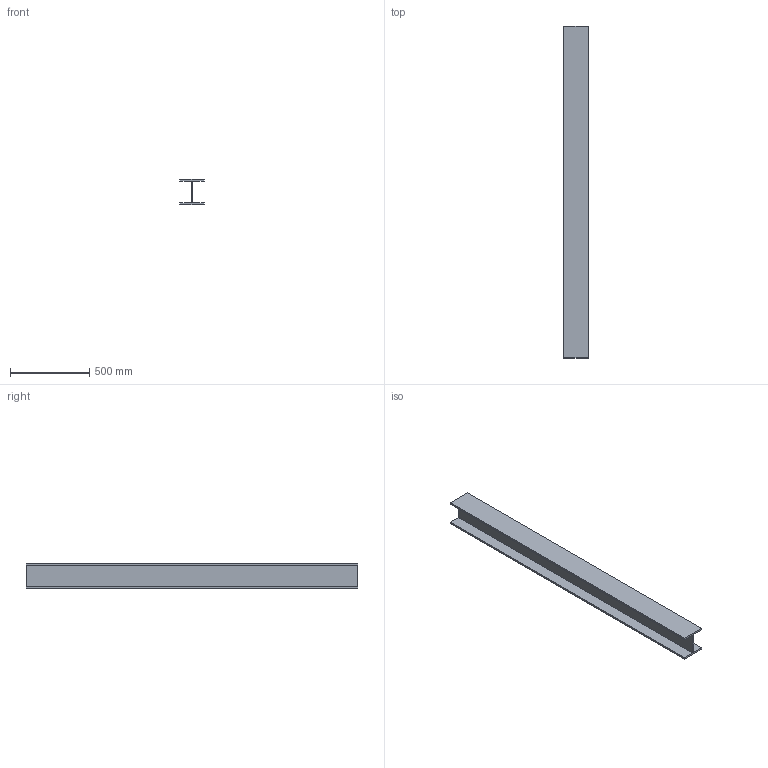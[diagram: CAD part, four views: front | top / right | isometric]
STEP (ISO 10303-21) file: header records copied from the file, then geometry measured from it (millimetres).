
FILE_DESCRIPTION(('Open CASCADE Model'),'2;1');
FILE_NAME('Open CASCADE Shape Model','2026-09-19T12:55:23',('Author'),( 'Open CASCADE'),'Open CASCADE STEP processor 7.9','Open CASCADE 7.9' ,'Unknown');
FILE_SCHEMA(('AUTOMOTIVE_DESIGN { 1 0 10303 214 1 1 1 1 }'));
Length unit declared in the file: millimetre
Products named in the file (1): Open CASCADE STEP translator 7.9 426
Bounding box: 154 x 2100 x 162 mm (x, y, z)
Volume: 9863868 mm3; surface area: 1949374.2 mm2
Topology: 1 solids, 1 shells, 14 faces, 36 edges, 24 vertices
Faces by surface type: plane 14
Entity records: 898 total; most frequent: CARTESIAN_POINT 147, DIRECTION 138, LINE 108, VECTOR 108, ORIENTED_EDGE 72, PCURVE 72, DEFINITIONAL_REPRESENTATION 72, EDGE_CURVE 36
